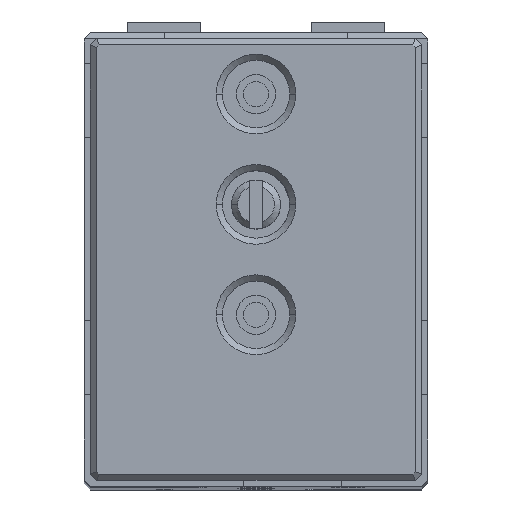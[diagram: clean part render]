
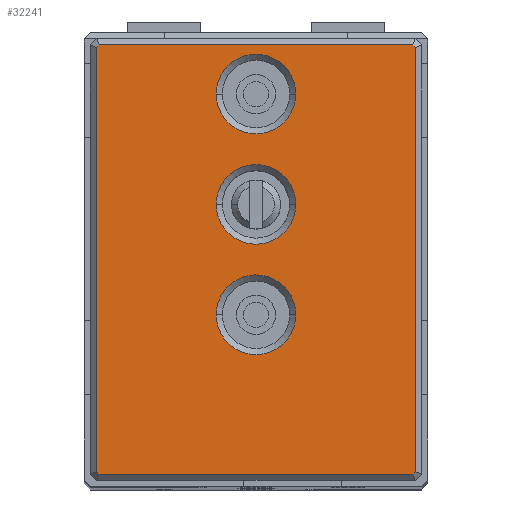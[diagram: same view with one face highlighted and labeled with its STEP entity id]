
A CAD part, top view. The second image highlights one B-rep face of the part: STEP entity #32241.
In plain terms, the highlighted planar face has unit normal (0, 0, 1) as drawn and (0, 0, -1) by its records, which use the part's own axes.
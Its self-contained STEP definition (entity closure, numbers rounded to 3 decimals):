
#194 = DIRECTION ( 'NONE',  ( -0.707, 0.707, 0. ) ) ;
#417 = LINE ( 'NONE', #28974, #37833 ) ;
#714 = DIRECTION ( 'NONE',  ( 0., 0., 1. ) ) ;
#980 = FACE_OUTER_BOUND ( 'NONE', #31132, .T. ) ;
#1104 = VERTEX_POINT ( 'NONE', #18540 ) ;
#1341 = VECTOR ( 'NONE', #12706, 1000. ) ;
#1775 = CARTESIAN_POINT ( 'NONE',  ( 13.5, 13.5, 0. ) ) ;
#2151 = EDGE_CURVE ( 'NONE', #51360, #22736, #8456, .T. ) ;
#2909 = EDGE_LOOP ( 'NONE', ( #28323, #53813 ) ) ;
#3196 = CARTESIAN_POINT ( 'NONE',  ( 30.896, 30.896, 0. ) ) ;
#3278 = EDGE_CURVE ( 'NONE', #38613, #15539, #39758, .T. ) ;
#3439 = EDGE_CURVE ( 'NONE', #16232, #53611, #48059, .T. ) ;
#3652 = EDGE_CURVE ( 'NONE', #31608, #35527, #25488, .T. ) ;
#3827 = ORIENTED_EDGE ( 'NONE', *, *, #4007, .T. ) ;
#4007 = EDGE_CURVE ( 'NONE', #53205, #31608, #52086, .T. ) ;
#4252 = CARTESIAN_POINT ( 'NONE',  ( -17.396, 17.396, 0. ) ) ;
#5075 = EDGE_LOOP ( 'NONE', ( #46821, #23995 ) ) ;
#5822 = CARTESIAN_POINT ( 'NONE',  ( 26.293, 0.5, 0. ) ) ;
#5894 = VECTOR ( 'NONE', #31766, 1000. ) ;
#6153 = CARTESIAN_POINT ( 'NONE',  ( 26.5, 0., 0. ) ) ;
#7418 = ORIENTED_EDGE ( 'NONE', *, *, #52571, .T. ) ;
#8456 = CIRCLE ( 'NONE', #23215, 3.25 ) ;
#8571 = LINE ( 'NONE', #41976, #37294 ) ;
#8752 = ORIENTED_EDGE ( 'NONE', *, *, #36240, .T. ) ;
#8877 = CIRCLE ( 'NONE', #31452, 3.25 ) ;
#12706 = DIRECTION ( 'NONE',  ( 0.707, 0.707, 0. ) ) ;
#15134 = AXIS2_PLACEMENT_3D ( 'NONE', #17464, #38078, #45973 ) ;
#15539 = VERTEX_POINT ( 'NONE', #21169 ) ;
#16104 = CARTESIAN_POINT ( 'NONE',  ( 10.25, 22.5, 0. ) ) ;
#16232 = VERTEX_POINT ( 'NONE', #21106 ) ;
#16285 = DIRECTION ( 'NONE',  ( 0., 0., 1. ) ) ;
#17075 = ORIENTED_EDGE ( 'NONE', *, *, #32024, .T. ) ;
#17464 = CARTESIAN_POINT ( 'NONE',  ( 13.5, 22.5, 0. ) ) ;
#17475 = VECTOR ( 'NONE', #49189, 1000. ) ;
#18540 = CARTESIAN_POINT ( 'NONE',  ( 26.5, 0.707, 0. ) ) ;
#19646 = EDGE_LOOP ( 'NONE', ( #32667, #8752 ) ) ;
#20453 = ORIENTED_EDGE ( 'NONE', *, *, #42556, .T. ) ;
#20881 = CARTESIAN_POINT ( 'NONE',  ( 0.604, 0.604, 0. ) ) ;
#21106 = CARTESIAN_POINT ( 'NONE',  ( 26.293, 35.5, 0. ) ) ;
#21169 = CARTESIAN_POINT ( 'NONE',  ( 16.75, 31.5, 0. ) ) ;
#21354 = CIRCLE ( 'NONE', #41313, 3.25 ) ;
#22299 = ORIENTED_EDGE ( 'NONE', *, *, #3439, .T. ) ;
#22736 = VERTEX_POINT ( 'NONE', #16104 ) ;
#22980 = DIRECTION ( 'NONE',  ( 0., 0., 1. ) ) ;
#23215 = AXIS2_PLACEMENT_3D ( 'NONE', #27562, #47114, #34895 ) ;
#23815 = CARTESIAN_POINT ( 'NONE',  ( 0., 0.5, 0. ) ) ;
#23995 = ORIENTED_EDGE ( 'NONE', *, *, #41832, .T. ) ;
#24354 = CARTESIAN_POINT ( 'NONE',  ( 10.25, 13.5, 0. ) ) ;
#25197 = PLANE ( 'NONE',  #34311 ) ;
#25467 = DIRECTION ( 'NONE',  ( 1., 0., 0. ) ) ;
#25488 = LINE ( 'NONE', #20881, #33708 ) ;
#26563 = DIRECTION ( 'NONE',  ( 0., -1., 0. ) ) ;
#27034 = EDGE_CURVE ( 'NONE', #35785, #52405, #8877, .T. ) ;
#27383 = CARTESIAN_POINT ( 'NONE',  ( 0.707, 35.5, 0. ) ) ;
#27562 = CARTESIAN_POINT ( 'NONE',  ( 13.5, 22.5, 0. ) ) ;
#28103 = DIRECTION ( 'NONE',  ( 1., 0., 0. ) ) ;
#28323 = ORIENTED_EDGE ( 'NONE', *, *, #29863, .T. ) ;
#28392 = ORIENTED_EDGE ( 'NONE', *, *, #3652, .T. ) ;
#28768 = DIRECTION ( 'NONE',  ( 1., 0., 0. ) ) ;
#28974 = CARTESIAN_POINT ( 'NONE',  ( 0., 35.5, 0. ) ) ;
#29863 = EDGE_CURVE ( 'NONE', #22736, #51360, #34197, .T. ) ;
#30075 = FACE_BOUND ( 'NONE', #2909, .T. ) ;
#31132 = EDGE_LOOP ( 'NONE', ( #7418, #33354, #3827, #28392, #31928, #17075, #20453, #22299 ) ) ;
#31452 = AXIS2_PLACEMENT_3D ( 'NONE', #1775, #22980, #35725 ) ;
#31608 = VERTEX_POINT ( 'NONE', #32612 ) ;
#31766 = DIRECTION ( 'NONE',  ( 0.707, -0.707, 0. ) ) ;
#31928 = ORIENTED_EDGE ( 'NONE', *, *, #33686, .T. ) ;
#32024 = EDGE_CURVE ( 'NONE', #36088, #34661, #53196, .T. ) ;
#32241 = ADVANCED_FACE ( 'NONE', ( #980, #30075, #50717, #41755 ), #25197, .F. ) ;
#32612 = CARTESIAN_POINT ( 'NONE',  ( 0.707, 0.5, 0. ) ) ;
#32667 = ORIENTED_EDGE ( 'NONE', *, *, #27034, .T. ) ;
#32959 = VECTOR ( 'NONE', #26563, 1000. ) ;
#33354 = ORIENTED_EDGE ( 'NONE', *, *, #52906, .T. ) ;
#33686 = EDGE_CURVE ( 'NONE', #35527, #36088, #33705, .T. ) ;
#33705 = LINE ( 'NONE', #50004, #17475 ) ;
#33708 = VECTOR ( 'NONE', #194, 1000. ) ;
#33768 = CARTESIAN_POINT ( 'NONE',  ( 26.5, 35.293, 0. ) ) ;
#33844 = DIRECTION ( 'NONE',  ( 1., 0., 0. ) ) ;
#34197 = CIRCLE ( 'NONE', #15134, 3.25 ) ;
#34311 = AXIS2_PLACEMENT_3D ( 'NONE', #46900, #714, #25467 ) ;
#34661 = VERTEX_POINT ( 'NONE', #27383 ) ;
#34895 = DIRECTION ( 'NONE',  ( 1., 0., 0. ) ) ;
#35527 = VERTEX_POINT ( 'NONE', #42118 ) ;
#35571 = CIRCLE ( 'NONE', #42506, 3.25 ) ;
#35725 = DIRECTION ( 'NONE',  ( 1., 0., 0. ) ) ;
#35785 = VERTEX_POINT ( 'NONE', #24354 ) ;
#36000 = CARTESIAN_POINT ( 'NONE',  ( 10.25, 31.5, 0. ) ) ;
#36088 = VERTEX_POINT ( 'NONE', #39523 ) ;
#36240 = EDGE_CURVE ( 'NONE', #52405, #35785, #21354, .T. ) ;
#37294 = VECTOR ( 'NONE', #49592, 1000. ) ;
#37833 = VECTOR ( 'NONE', #33844, 1000. ) ;
#38078 = DIRECTION ( 'NONE',  ( 0., 0., 1. ) ) ;
#38613 = VERTEX_POINT ( 'NONE', #36000 ) ;
#39523 = CARTESIAN_POINT ( 'NONE',  ( 0.5, 35.293, 0. ) ) ;
#39758 = CIRCLE ( 'NONE', #48439, 3.25 ) ;
#41313 = AXIS2_PLACEMENT_3D ( 'NONE', #48460, #43871, #28103 ) ;
#41755 = FACE_BOUND ( 'NONE', #5075, .T. ) ;
#41832 = EDGE_CURVE ( 'NONE', #15539, #38613, #35571, .T. ) ;
#41971 = CARTESIAN_POINT ( 'NONE',  ( 16.75, 22.5, 0. ) ) ;
#41976 = CARTESIAN_POINT ( 'NONE',  ( 12.896, -12.896, 0. ) ) ;
#42118 = CARTESIAN_POINT ( 'NONE',  ( 0.5, 0.707, 0. ) ) ;
#42506 = AXIS2_PLACEMENT_3D ( 'NONE', #45061, #16285, #28768 ) ;
#42556 = EDGE_CURVE ( 'NONE', #34661, #16232, #417, .T. ) ;
#42920 = DIRECTION ( 'NONE',  ( 0., 0., 1. ) ) ;
#43184 = DIRECTION ( 'NONE',  ( 1., 0., 0. ) ) ;
#43723 = CARTESIAN_POINT ( 'NONE',  ( 13.5, 31.5, 0. ) ) ;
#43871 = DIRECTION ( 'NONE',  ( 0., 0., 1. ) ) ;
#44442 = VECTOR ( 'NONE', #48260, 1000. ) ;
#45061 = CARTESIAN_POINT ( 'NONE',  ( 13.5, 31.5, 0. ) ) ;
#45862 = CARTESIAN_POINT ( 'NONE',  ( 16.75, 13.5, 0. ) ) ;
#45973 = DIRECTION ( 'NONE',  ( 1., 0., 0. ) ) ;
#46821 = ORIENTED_EDGE ( 'NONE', *, *, #3278, .T. ) ;
#46900 = CARTESIAN_POINT ( 'NONE',  ( 0., 0., 0. ) ) ;
#47114 = DIRECTION ( 'NONE',  ( 0., 0., 1. ) ) ;
#48059 = LINE ( 'NONE', #3196, #5894 ) ;
#48260 = DIRECTION ( 'NONE',  ( -1., 0., 0. ) ) ;
#48439 = AXIS2_PLACEMENT_3D ( 'NONE', #43723, #42920, #43184 ) ;
#48460 = CARTESIAN_POINT ( 'NONE',  ( 13.5, 13.5, 0. ) ) ;
#49189 = DIRECTION ( 'NONE',  ( 0., 1., 0. ) ) ;
#49592 = DIRECTION ( 'NONE',  ( -0.707, -0.707, 0. ) ) ;
#50004 = CARTESIAN_POINT ( 'NONE',  ( 0.5, 0., 0. ) ) ;
#50717 = FACE_BOUND ( 'NONE', #19646, .T. ) ;
#51270 = LINE ( 'NONE', #6153, #32959 ) ;
#51360 = VERTEX_POINT ( 'NONE', #41971 ) ;
#52086 = LINE ( 'NONE', #23815, #44442 ) ;
#52405 = VERTEX_POINT ( 'NONE', #45862 ) ;
#52571 = EDGE_CURVE ( 'NONE', #53611, #1104, #51270, .T. ) ;
#52906 = EDGE_CURVE ( 'NONE', #1104, #53205, #8571, .T. ) ;
#53196 = LINE ( 'NONE', #4252, #1341 ) ;
#53205 = VERTEX_POINT ( 'NONE', #5822 ) ;
#53611 = VERTEX_POINT ( 'NONE', #33768 ) ;
#53813 = ORIENTED_EDGE ( 'NONE', *, *, #2151, .T. ) ;
